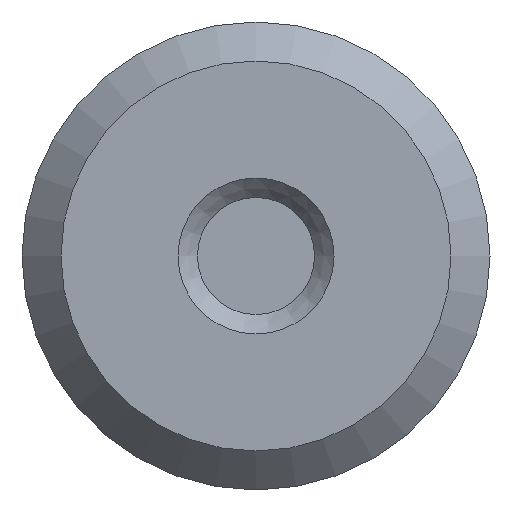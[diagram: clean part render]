
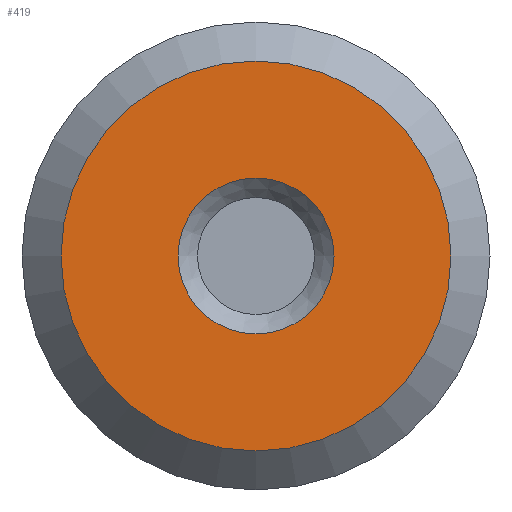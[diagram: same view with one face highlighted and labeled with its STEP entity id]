
A CAD part, left-side view. The second image highlights one B-rep face of the part: STEP entity #419.
In plain terms, the highlighted planar face has unit normal (-1, 0, 0).
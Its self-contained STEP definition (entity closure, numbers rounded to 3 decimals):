
#29=FACE_BOUND('',#105,.T.);
#39=CIRCLE('',#473,2.);
#40=CIRCLE('',#474,2.);
#42=CIRCLE('',#477,5.);
#43=CIRCLE('',#478,5.);
#82=FACE_OUTER_BOUND('',#104,.T.);
#104=EDGE_LOOP('',(#340,#341));
#105=EDGE_LOOP('',(#342,#343));
#197=VERTEX_POINT('',#775);
#198=VERTEX_POINT('',#777);
#199=VERTEX_POINT('',#782);
#200=VERTEX_POINT('',#783);
#251=EDGE_CURVE('',#198,#197,#39,.T.);
#252=EDGE_CURVE('',#197,#198,#40,.T.);
#254=EDGE_CURVE('',#199,#200,#42,.T.);
#255=EDGE_CURVE('',#200,#199,#43,.T.);
#340=ORIENTED_EDGE('',*,*,#254,.F.);
#341=ORIENTED_EDGE('',*,*,#255,.F.);
#342=ORIENTED_EDGE('',*,*,#251,.T.);
#343=ORIENTED_EDGE('',*,*,#252,.T.);
#404=PLANE('',#476);
#419=ADVANCED_FACE('',(#82,#29),#404,.T.);
#473=AXIS2_PLACEMENT_3D('',#778,#574,#575);
#474=AXIS2_PLACEMENT_3D('',#779,#576,#577);
#476=AXIS2_PLACEMENT_3D('',#781,#580,#581);
#477=AXIS2_PLACEMENT_3D('',#784,#582,#583);
#478=AXIS2_PLACEMENT_3D('',#785,#584,#585);
#574=DIRECTION('center_axis',(1.,0.,0.));
#575=DIRECTION('ref_axis',(0.,0.,-1.));
#576=DIRECTION('center_axis',(1.,0.,0.));
#577=DIRECTION('ref_axis',(0.,0.,-1.));
#580=DIRECTION('center_axis',(-1.,0.,0.));
#581=DIRECTION('ref_axis',(0.,0.,1.));
#582=DIRECTION('center_axis',(1.,0.,0.));
#583=DIRECTION('ref_axis',(0.,0.,-1.));
#584=DIRECTION('center_axis',(1.,0.,0.));
#585=DIRECTION('ref_axis',(0.,0.,-1.));
#775=CARTESIAN_POINT('',(-67.5,-2.,0.));
#777=CARTESIAN_POINT('',(-67.5,2.,0.));
#778=CARTESIAN_POINT('Origin',(-67.5,0.,0.));
#779=CARTESIAN_POINT('Origin',(-67.5,0.,0.));
#781=CARTESIAN_POINT('Origin',(-67.5,5.,0.));
#782=CARTESIAN_POINT('',(-67.5,5.,0.));
#783=CARTESIAN_POINT('',(-67.5,-5.,0.));
#784=CARTESIAN_POINT('Origin',(-67.5,0.,0.));
#785=CARTESIAN_POINT('Origin',(-67.5,0.,0.));
